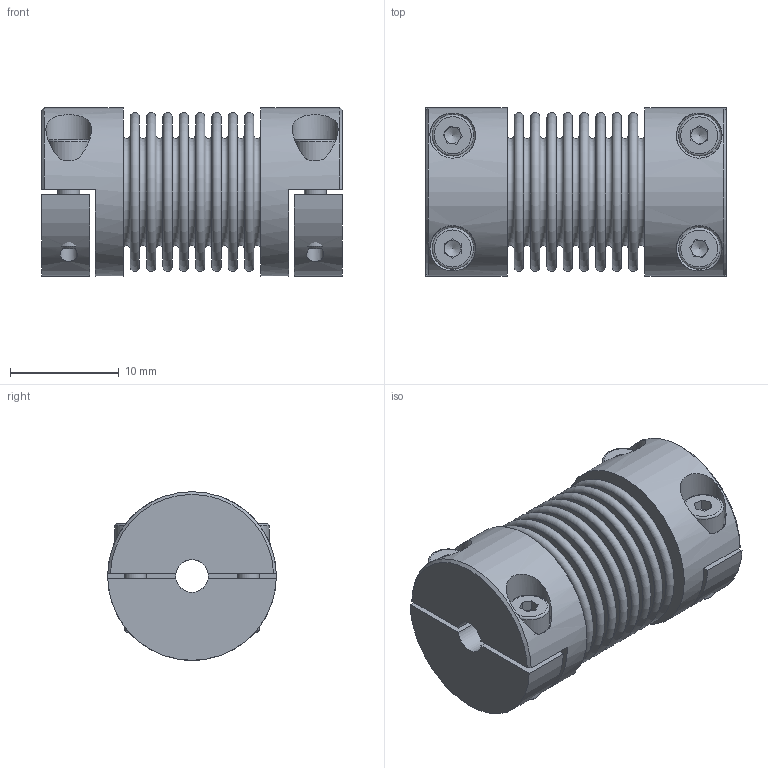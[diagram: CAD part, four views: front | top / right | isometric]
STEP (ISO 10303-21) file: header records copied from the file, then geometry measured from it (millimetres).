
FILE_DESCRIPTION( ( 'Unknown' ), '1' );
FILE_NAME( 'K:/Konstruktion/KB2H/KB2H-10-26.stp', 'Unknown', ( 'Unknown' ), ( 'Unknown' ), 'PSStep 16.0.42', 'Unknown', ' ' );
FILE_SCHEMA( ( 'AUTOMOTIVE_DESIGN { 1 0 10303 214 1 1 1 1 }' ) );
Length unit declared in the file: millimetre
Products named in the file (5): Assem1; KNH-5; Socket Head Cap Screw_DIN_DIN 912 M2 x 8 --- 8N_11; BM10_Standard_0
Assembly tree (9 placements, depth 2):
  Assem1
    KNH-5  x2
    KNH-5  x2
    Socket Head Cap Screw_DIN_DIN 912 M2 x 8 --- 8N_11  x4
    BM10_Standard_0
Bounding box: 27.65 x 15.5 x 15.5 mm (x, y, z)
Volume: 2723.2 mm3; surface area: 6759.6 mm2
Topology: 9 solids, 9 shells, 212 faces, 418 edges, 266 vertices
Faces by surface type: plane 120, torus 50, cylinder 32, cone 10
Full cylindrical faces by diameter (mm): 1.567 x4, 2 x4, 2.2 x4, 3 x2, 3.8 x4, 12.9 x2, 13.1 x2, 15.5 x2
Entity records: 4128 total; most frequent: CARTESIAN_POINT 645, DIRECTION 538, ORIENTED_EDGE 324, AXIS2_PLACEMENT_3D 249, EDGE_LOOP 231, FACE_OUTER_BOUND 179, EDGE_CURVE 162, VERTEX_POINT 156
